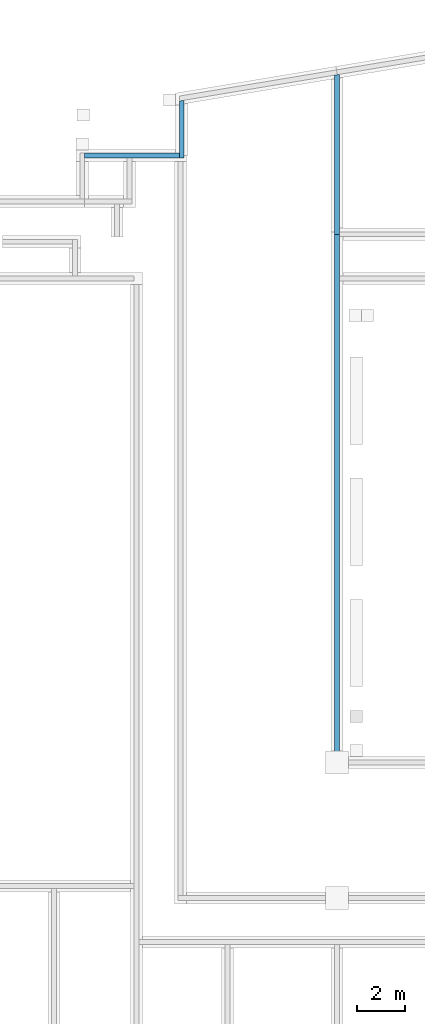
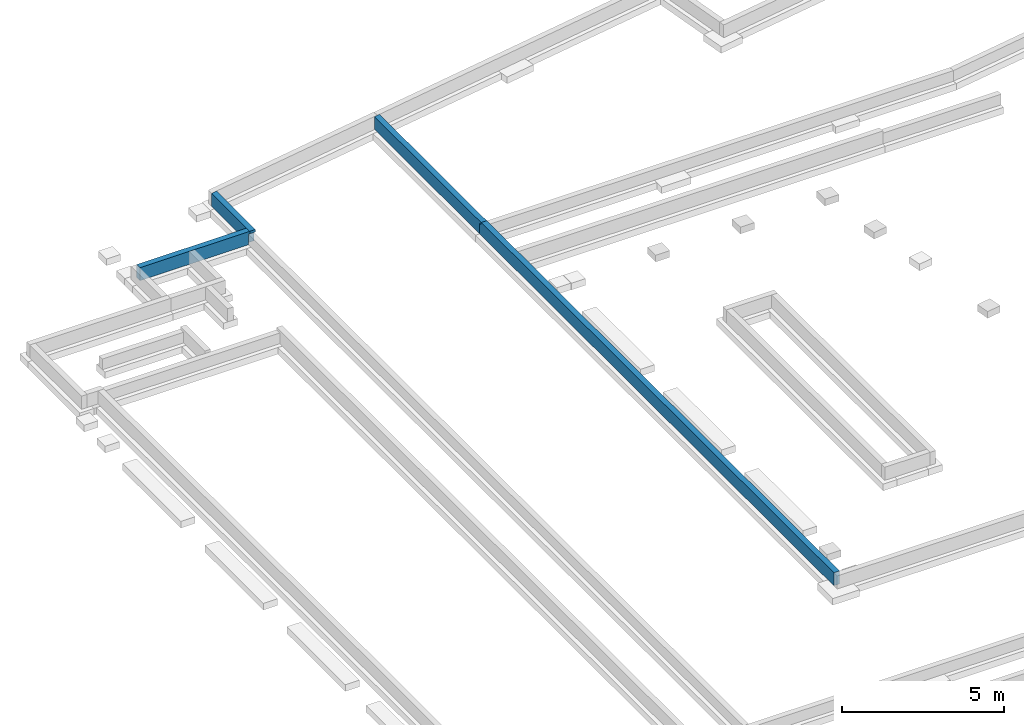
# One storey, part 5 of 5: 4 walls.
"""IFC4 building model written with IfcOpenShell, lengths in metres."""

from ifc_helpers import new_model, entity, si_unit, converted_unit, derived_unit, direction, frame, origin, place, context, subcontext, project, spatial, polygons, material, type_object, element, save


model = new_model("IFC4")

# Units and contexts
model_context = context("Model", 3, precision=1e-05, world=origin(), true_north=direction((6.123031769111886e-17, 1.0)))
body_context = subcontext(model_context, "Body", "Model", "MODEL_VIEW")
ifc_project = project(units=[si_unit("LENGTHUNIT", "METRE"), si_unit("AREAUNIT", "SQUARE_METRE"), si_unit("VOLUMEUNIT", "CUBIC_METRE"), converted_unit("PLANEANGLEUNIT", "DEGREE", entity("IfcRatioMeasure", 0.017453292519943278), si_unit("PLANEANGLEUNIT", "RADIAN"), dimensions=[0, 0, 0, 0, 0, 0, 0]), si_unit("MASSUNIT", "GRAM", prefix="KILO"), derived_unit("MASSDENSITYUNIT", [(si_unit("MASSUNIT", "GRAM", prefix="KILO"), 1), (si_unit("LENGTHUNIT", "METRE"), -3)]), derived_unit("MOMENTOFINERTIAUNIT", [(si_unit("LENGTHUNIT", "METRE"), 4)]), si_unit("TIMEUNIT", "SECOND"), si_unit("FREQUENCYUNIT", "HERTZ"), si_unit("THERMODYNAMICTEMPERATUREUNIT", "DEGREE_CELSIUS"), derived_unit("THERMALTRANSMITTANCEUNIT", [(si_unit("MASSUNIT", "GRAM", prefix="KILO"), 1), (si_unit("THERMODYNAMICTEMPERATUREUNIT", "KELVIN"), -1), (si_unit("TIMEUNIT", "SECOND"), -3)]), derived_unit("VOLUMETRICFLOWRATEUNIT", [(si_unit("LENGTHUNIT", "METRE"), 3), (si_unit("TIMEUNIT", "SECOND"), -1)]), derived_unit("MASSFLOWRATEUNIT", [(si_unit("MASSUNIT", "GRAM", prefix="KILO"), 1), (si_unit("TIMEUNIT", "SECOND"), -1)]), derived_unit("ROTATIONALFREQUENCYUNIT", [(si_unit("TIMEUNIT", "SECOND"), -1)]), si_unit("ELECTRICCURRENTUNIT", "AMPERE"), si_unit("ELECTRICVOLTAGEUNIT", "VOLT"), si_unit("POWERUNIT", "WATT"), si_unit("FORCEUNIT", "NEWTON", prefix="KILO"), si_unit("ILLUMINANCEUNIT", "LUX"), si_unit("LUMINOUSFLUXUNIT", "LUMEN"), si_unit("LUMINOUSINTENSITYUNIT", "CANDELA"), derived_unit("USERDEFINED", [(si_unit("MASSUNIT", "GRAM", prefix="KILO"), -1), (si_unit("LENGTHUNIT", "METRE"), -2), (si_unit("TIMEUNIT", "SECOND"), 3), (si_unit("LUMINOUSFLUXUNIT", "LUMEN"), 1)]), derived_unit("SOUNDPOWERUNIT", [(si_unit("MASSUNIT", "GRAM", prefix="KILO"), 1), (si_unit("LENGTHUNIT", "METRE"), 2), (si_unit("TIMEUNIT", "SECOND"), -3)]), derived_unit("SOUNDPRESSUREUNIT", [(si_unit("MASSUNIT", "GRAM", prefix="KILO"), 1), (si_unit("LENGTHUNIT", "METRE"), -1), (si_unit("TIMEUNIT", "SECOND"), -2)]), derived_unit("LINEARVELOCITYUNIT", [(si_unit("LENGTHUNIT", "METRE"), 1), (si_unit("TIMEUNIT", "SECOND"), -1)]), si_unit("PRESSUREUNIT", "PASCAL"), derived_unit("USERDEFINED", [(si_unit("LENGTHUNIT", "METRE"), -2), (si_unit("MASSUNIT", "GRAM", prefix="KILO"), 1), (si_unit("TIMEUNIT", "SECOND"), -2)]), derived_unit("LINEARFORCEUNIT", [(si_unit("MASSUNIT", "GRAM", prefix="KILO"), 1), (si_unit("LENGTHUNIT", "METRE"), 1), (si_unit("TIMEUNIT", "SECOND"), -2), (si_unit("LENGTHUNIT", "METRE"), -1)]), derived_unit("PLANARFORCEUNIT", [(si_unit("MASSUNIT", "GRAM", prefix="KILO"), 1), (si_unit("LENGTHUNIT", "METRE"), 1), (si_unit("TIMEUNIT", "SECOND"), -2), (si_unit("LENGTHUNIT", "METRE"), -2)])], contexts=[model_context])

# Site, building, storey
site_placement = place(None, origin())
site = spatial("IfcSite", under=ifc_project, at=site_placement, Name="Default", CompositionType="ELEMENT")
building_placement = place(site_placement, origin())
building = spatial("IfcBuilding", under=site, at=building_placement, CompositionType="ELEMENT")
storey_placement = place(building_placement, frame((0.0, 0.0, -0.88)))
storey = spatial("IfcBuildingStorey", under=building, at=storey_placement, Name="Arase inf soubassement", CompositionType="ELEMENT", Elevation=-0.88)

# Walls
ifc_material = material(Name="Mur par défaut", Category="Divers")
wall_type_1 = type_object("IfcWallType", Name="Mur de base:Libages blocs pleins", PredefinedType="STANDARD")
wall_1_placement = place(storey_placement, frame((-17.665240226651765, 18.057565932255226, 0.25), z_axis=(0.0, 0.0, 1.0), x_axis=(0.0, -1.0, 0.0)))
element("IfcWall", 1, at=wall_1_placement, inside=storey, type_object=wall_type_1, material=ifc_material, Name="Mur de base:Libages blocs pleins", ObjectType="Mur de base:Libages blocs pleins", PredefinedType="NOTDEFINED", context=body_context, shape_type="Tessellation", body=[
    polygons([(0.033289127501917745, -0.09999999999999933, 0.0), (2.188459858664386, -0.09999999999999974, 0.0), (2.288459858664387, -0.09999999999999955, 0.0), (2.288459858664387, -0.09999999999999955, 0.4), (2.388459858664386, -0.09999999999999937, 0.4), (2.388459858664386, -0.09999999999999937, 0.48999999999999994), (2.188459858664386, -0.09999999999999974, 0.49), (0.033289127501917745, -0.09999999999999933, 0.48999999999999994), (0.0, 0.10000000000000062, 0.0), (0.0, 0.10000000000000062, 0.48999999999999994), (2.388459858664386, 0.09999999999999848, 0.48999999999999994), (2.388459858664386, 0.09999999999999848, 0.4), (2.288459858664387, 0.0999999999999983, 0.4), (2.288459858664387, 0.0999999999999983, 0.0), (2.288459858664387, 0.05179017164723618, 0.0), (2.288459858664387, 0.05179017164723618, 0.4)], [[[1, 2, 3, 4, 5, 6, 7, 8]], [[9, 10, 11, 12, 13, 14]], [[3, 2, 1, 9, 14, 15]], [[8, 7, 6, 11, 10]], [[1, 8, 10, 9]], [[4, 3, 15, 14, 13, 16]], [[12, 5, 4, 16, 13]], [[6, 5, 12, 11]]], closed=True),
])
wall_2_placement = place(storey_placement, frame((-11.25345005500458, -9.205893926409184, 0.25), z_axis=(0.0, 0.0, 1.0), x_axis=(0.0, 1.0, 0.0)))
element("IfcWall", 2, at=wall_2_placement, inside=storey, type_object=wall_type_1, material=ifc_material, Name="Mur de base:Libages blocs pleins", ObjectType="Mur de base:Libages blocs pleins", PredefinedType="NOTDEFINED", context=body_context, shape_type="Tessellation", body=[
    polygons([(0.0, -0.10000000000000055, 0.0), (19.794999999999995, -0.1000000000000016, 0.0), (19.994999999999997, -0.1000000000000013, 0.0), (21.624999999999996, -0.10000000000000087, 0.0), (21.824999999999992, -0.10000000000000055, 0.0), (21.824999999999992, -0.10000000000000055, 0.4), (21.725000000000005, -0.1000000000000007, 0.4), (21.725000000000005, -0.1000000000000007, 0.48), (21.725000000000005, -0.1000000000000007, 0.48999999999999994), (19.994999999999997, -0.1000000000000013, 0.48999999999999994), (19.794999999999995, -0.1000000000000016, 0.48999999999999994), (0.0, -0.10000000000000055, 0.48999999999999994), (-1.0828671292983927e-15, 0.09999999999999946, 0.0), (-1.0828671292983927e-15, 0.09999999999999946, 0.48999999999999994), (21.725000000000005, 0.09999999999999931, 0.48999999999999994), (21.725000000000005, 0.09999999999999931, 0.48), (21.725000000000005, 0.09999999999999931, 0.4), (21.824999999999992, 0.09999999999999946, 0.4), (21.824999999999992, 0.09999999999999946, 0.0)], [[[1, 2, 3, 4, 5, 6, 7, 8, 9, 10, 11, 12]], [[13, 14, 15, 16, 17, 18, 19]], [[5, 4, 3, 2, 1, 13, 19]], [[12, 11, 10, 9, 15, 14]], [[1, 12, 14, 13]], [[9, 8, 7, 17, 16, 15]], [[17, 7, 6, 18]], [[6, 5, 19, 18]]], closed=True),
])
wall_type_2 = type_object("IfcWallType", Name="Mur de base:Libages BA", PredefinedType="STANDARD")
wall_3_placement = place(storey_placement, frame((-11.253450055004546, 12.51910607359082, 0.25), z_axis=(0.0, 0.0, 1.0), x_axis=(0.0, 1.0, 0.0)))
element("IfcWall", 3, at=wall_3_placement, inside=storey, type_object=wall_type_2, material=ifc_material, Name="Mur de base:Libages BA", ObjectType="Mur de base:Libages BA", PredefinedType="NOTDEFINED", context=body_context, shape_type="Tessellation", body=[
    polygons([(0.09999999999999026, -0.10000000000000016, 0.0), (6.605674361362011, -0.10000000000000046, 0.0), (6.605674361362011, -0.10000000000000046, 0.48), (0.0, -0.10000000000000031, 0.48), (0.0, -0.10000000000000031, 0.4), (0.09999999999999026, -0.10000000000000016, 0.4), (0.09999999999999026, 0.09999999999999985, 0.0), (0.09999999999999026, 0.09999999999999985, 0.4), (0.0, 0.0999999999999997, 0.4), (0.0, 0.0999999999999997, 0.48), (6.572385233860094, 0.0999999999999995, 0.48), (6.572385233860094, 0.0999999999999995, 0.0), (6.591762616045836, -0.01641868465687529, 0.0), (6.591762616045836, -0.01641868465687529, 0.48)], [[[1, 2, 3, 4, 5, 6]], [[7, 8, 9, 10, 11, 12]], [[2, 1, 7, 12, 13]], [[4, 3, 14, 11, 10]], [[3, 2, 13, 12, 11, 14]], [[5, 4, 10, 9]], [[5, 9, 8, 6]], [[1, 6, 8, 7]]], closed=True),
])
wall_4_placement = place(storey_placement, frame((-21.67345005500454, 15.76910607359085, 0.25)))
element("IfcWall", 4, at=wall_4_placement, inside=storey, type_object=wall_type_2, material=ifc_material, Name="Mur de base:Libages BA", ObjectType="Mur de base:Libages BA", PredefinedType="NOTDEFINED", context=body_context, shape_type="Tessellation", body=[
    polygons([(1.827198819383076e-15, -0.09999999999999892, 0.0), (1.7500000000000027, -0.09999999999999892, 0.0), (1.9500000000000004, -0.09999999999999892, 0.0), (3.8600000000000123, -0.09999999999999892, 0.0), (3.86000000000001, -0.09999999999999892, 0.4), (3.908209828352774, -0.09999999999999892, 0.4), (3.908209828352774, -0.09999999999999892, 0.48999999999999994), (1.9500000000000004, -0.09999999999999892, 0.48999999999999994), (1.7500000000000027, -0.09999999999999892, 0.48999999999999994), (1.827198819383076e-15, -0.09999999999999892, 0.48999999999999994), (1.1870803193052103e-15, 0.10000000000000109, 0.0), (1.1870803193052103e-15, 0.10000000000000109, 0.48999999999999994), (3.9082098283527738, 0.09999999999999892, 0.48999999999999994), (3.9082098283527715, 0.09999999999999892, 0.4), (3.9082098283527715, 0.09999999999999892, 0.0), (3.908209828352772, 0.0, 0.0), (3.8600000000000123, -4.331468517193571e-15, 0.0), (3.908209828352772, 0.0, 0.4), (3.8600000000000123, -4.331468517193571e-15, 0.4)], [[[1, 2, 3, 4, 5, 6, 7, 8, 9, 10]], [[11, 12, 13, 14, 15]], [[4, 3, 2, 1, 11, 15, 16, 17]], [[10, 9, 8, 7, 13, 12]], [[18, 6, 5, 19]], [[5, 4, 17, 19]], [[17, 16, 18, 19]], [[16, 15, 14, 18]], [[7, 6, 18, 14, 13]], [[1, 10, 12, 11]]], closed=True),
])

save(model, "model.ifc")
